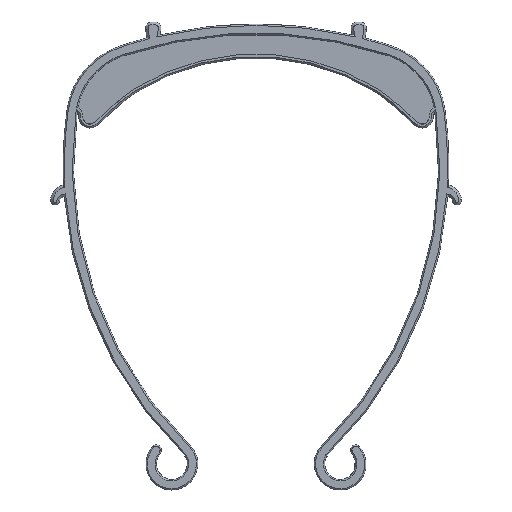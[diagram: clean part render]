
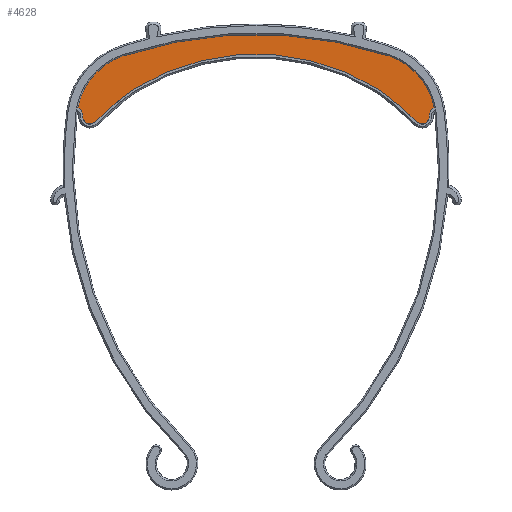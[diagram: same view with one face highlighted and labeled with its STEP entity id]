
A CAD part, top view. The second image highlights one B-rep face of the part: STEP entity #4628.
In plain terms, the highlighted planar face has unit normal (0, 0, 1).
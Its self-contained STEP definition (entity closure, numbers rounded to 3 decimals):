
#1742=CARTESIAN_POINT('',(70.49,-4.822,10.6));
#1743=DIRECTION('',(0.,0.,-1.));
#1744=DIRECTION('',(-0.996,-0.086,0.));
#1745=AXIS2_PLACEMENT_3D('',#1742,#1743,#1744);
#1756=CARTESIAN_POINT('',(43.214,-6.717,10.6));
#1757=DIRECTION('',(0.,0.,-1.));
#1758=DIRECTION('',(0.316,0.949,0.));
#1759=AXIS2_PLACEMENT_3D('',#1756,#1757,#1758);
#1766=CARTESIAN_POINT('',(-43.182,-6.717,10.6));
#1767=DIRECTION('',(0.,0.,1.));
#1768=DIRECTION('',(-0.316,0.949,0.));
#1769=AXIS2_PLACEMENT_3D('',#1766,#1767,#1768);
#1786=CARTESIAN_POINT('',(-70.457,-4.822,10.6));
#1787=DIRECTION('',(0.,0.,1.));
#1788=DIRECTION('',(0.996,-0.086,0.));
#1789=AXIS2_PLACEMENT_3D('',#1786,#1787,#1788);
#1795=CARTESIAN_POINT('',(-47.389,5.316,10.6));
#1796=CARTESIAN_POINT('',(-48.946,4.339,10.6));
#1797=CARTESIAN_POINT('',(-51.283,2.62,10.6));
#1798=CARTESIAN_POINT('',(-53.679,0.429,10.6));
#1799=CARTESIAN_POINT('',(-56.363,-1.847,10.6));
#1800=CARTESIAN_POINT('',(-59.337,-4.528,10.6));
#1801=CARTESIAN_POINT('',(-61.927,-7.213,10.6));
#1802=CARTESIAN_POINT('',(-63.825,-8.201,10.6));
#1803=CARTESIAN_POINT('',(-64.96,-8.258,10.6));
#1804=CARTESIAN_POINT('',(-66.389,-7.343,10.6));
#1805=CARTESIAN_POINT('',(-67.159,-6.004,10.6));
#1806=CARTESIAN_POINT('',(-67.205,-5.315,10.6));
#1807=CARTESIAN_POINT('',(-67.177,-5.109,10.6));
#1808=CARTESIAN_POINT('',(-67.177,-5.104,10.6));
#1814=CARTESIAN_POINT('',(0.016,-70.194,10.6));
#1815=DIRECTION('',(0.,0.,1.));
#1816=DIRECTION('',(0.532,0.847,0.));
#1817=AXIS2_PLACEMENT_3D('',#1814,#1815,#1816);
#1819=CARTESIAN_POINT('',(47.421,5.316,10.6));
#1820=CARTESIAN_POINT('',(48.978,4.339,10.6));
#1821=CARTESIAN_POINT('',(51.315,2.62,10.6));
#1822=CARTESIAN_POINT('',(53.711,0.429,10.6));
#1823=CARTESIAN_POINT('',(56.396,-1.846,10.6));
#1824=CARTESIAN_POINT('',(59.369,-4.528,10.6));
#1825=CARTESIAN_POINT('',(61.959,-7.213,10.6));
#1826=CARTESIAN_POINT('',(63.857,-8.201,10.6));
#1827=CARTESIAN_POINT('',(64.993,-8.257,10.6));
#1828=CARTESIAN_POINT('',(66.421,-7.342,10.6));
#1829=CARTESIAN_POINT('',(67.191,-6.004,10.6));
#1830=CARTESIAN_POINT('',(67.237,-5.314,10.6));
#1831=CARTESIAN_POINT('',(67.21,-5.109,10.6));
#1832=CARTESIAN_POINT('',(67.209,-5.103,10.6));
#1851=CARTESIAN_POINT('',(0.016,-136.397,10.6));
#1852=DIRECTION('',(0.,0.,1.));
#1853=DIRECTION('',(0.316,0.949,0.));
#1854=AXIS2_PLACEMENT_3D('',#1851,#1852,#1853);
#2562=CARTESIAN_POINT('',(-51.499,18.248,10.6));
#2563=CARTESIAN_POINT('',(-69.042,-1.849,10.6));
#2564=VERTEX_POINT('',#2562);
#2565=VERTEX_POINT('',#2563);
#2566=CARTESIAN_POINT('',(51.531,18.248,10.6));
#2567=VERTEX_POINT('',#2566);
#2568=CARTESIAN_POINT('',(69.074,-1.849,10.6));
#2569=VERTEX_POINT('',#2568);
#2570=CARTESIAN_POINT('',(47.421,5.316,10.6));
#2571=CARTESIAN_POINT('',(-47.389,5.316,10.6));
#2572=VERTEX_POINT('',#2570);
#2573=VERTEX_POINT('',#2571);
#2912=VERTEX_POINT('',#1808);
#2913=VERTEX_POINT('',#1832);
#4607=CARTESIAN_POINT('',(0.,0.,10.6));
#4608=DIRECTION('',(0.,0.,1.));
#4609=DIRECTION('',(1.,0.,0.));
#4610=AXIS2_PLACEMENT_3D('',#4607,#4608,#4609);
#4611=PLANE('',#4610);
#4613=ORIENTED_EDGE('',*,*,#4612,.F.);
#4615=ORIENTED_EDGE('',*,*,#4614,.F.);
#4616=ORIENTED_EDGE('',*,*,#4600,.T.);
#4617=ORIENTED_EDGE('',*,*,#4588,.F.);
#4619=ORIENTED_EDGE('',*,*,#4618,.F.);
#4621=ORIENTED_EDGE('',*,*,#4620,.T.);
#4623=ORIENTED_EDGE('',*,*,#4622,.T.);
#4625=ORIENTED_EDGE('',*,*,#4624,.T.);
#4626=EDGE_LOOP('',(#4613,#4615,#4616,#4617,#4619,#4621,#4623,#4625));
#4627=FACE_OUTER_BOUND('',#4626,.F.);
#4628=ADVANCED_FACE('',(#4627),#4611,.T.);
#1746=CIRCLE('',#1745,3.293);
#1760=CIRCLE('',#1759,26.314);
#1770=CIRCLE('',#1769,26.314);
#1790=CIRCLE('',#1789,3.293);
#1809=B_SPLINE_CURVE_WITH_KNOTS('',3,(#1795,#1796,#1797,#1798,#1799,#1800,#1801,
#1802,#1803,#1804,#1805,#1806,#1807,#1808),.UNSPECIFIED.,.F.,.F.,(4,1,1,1,1,1,1,
1,1,1,1,4),(0.,0.144,0.289,0.424,
0.559,0.691,0.757,0.823,
0.895,0.966,0.999,1.),.UNSPECIFIED.);
#1818=CIRCLE('',#1817,89.157);
#1833=B_SPLINE_CURVE_WITH_KNOTS('',3,(#1819,#1820,#1821,#1822,#1823,#1824,#1825,
#1826,#1827,#1828,#1829,#1830,#1831,#1832),.UNSPECIFIED.,.F.,.F.,(4,1,1,1,1,1,1,
1,1,1,1,4),(0.,0.144,0.289,0.424,
0.559,0.691,0.757,0.823,
0.895,0.966,0.999,1.),.UNSPECIFIED.);
#1855=CIRCLE('',#1854,163.);
#4588=EDGE_CURVE('',#2913,#2569,#1746,.T.);
#4600=EDGE_CURVE('',#2567,#2569,#1760,.T.);
#4612=EDGE_CURVE('',#2564,#2565,#1770,.T.);
#4614=EDGE_CURVE('',#2567,#2564,#1855,.T.);
#4618=EDGE_CURVE('',#2572,#2913,#1833,.T.);
#4620=EDGE_CURVE('',#2572,#2573,#1818,.T.);
#4622=EDGE_CURVE('',#2573,#2912,#1809,.T.);
#4624=EDGE_CURVE('',#2912,#2565,#1790,.T.);
